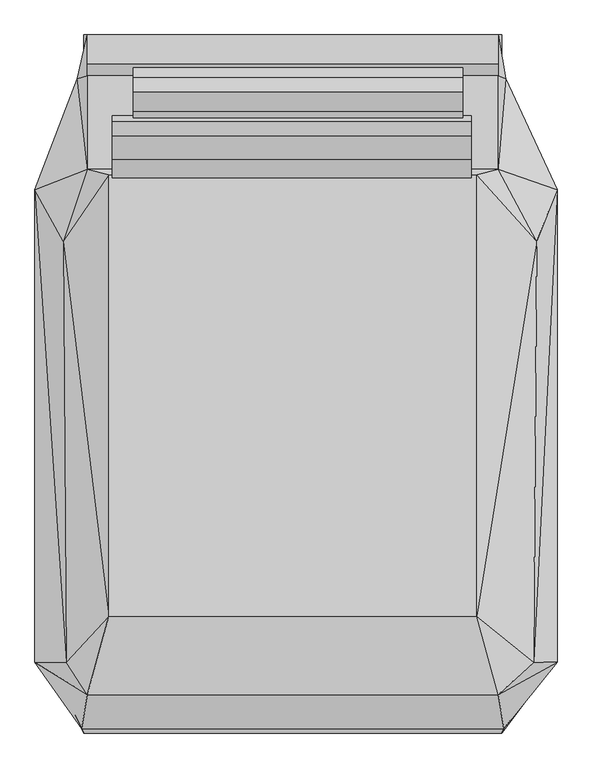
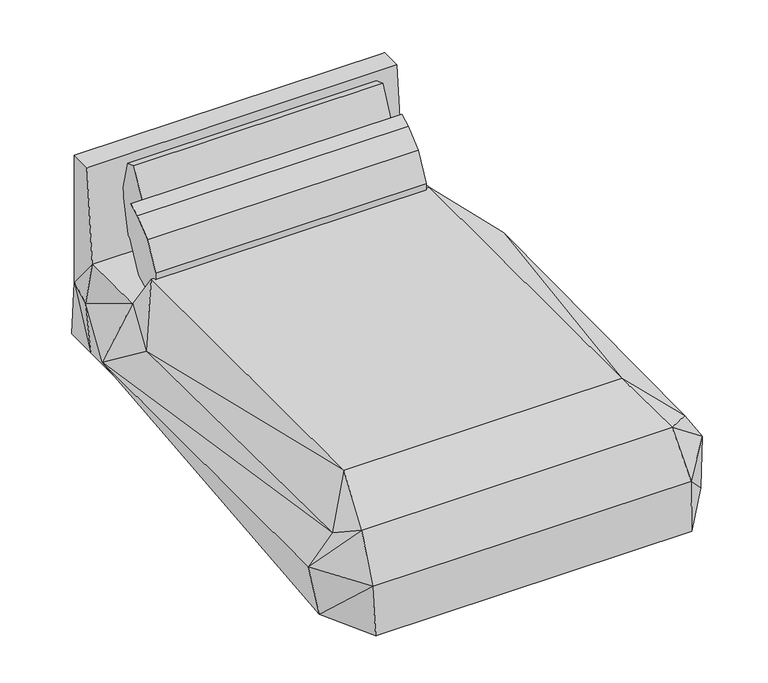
"""IFC4 building model written with IfcOpenShell, lengths in millimetres: geographic element geometry, Enscape AssetDefinition - Bed 013 138x212 cm (54x83 in) : Enscape AssetDefinition - Bed 013 138x212 cm (54x83 in)."""

from ifc_helpers import new_model, si_unit, origin, place, context, project, spatial, triangles, source, transform, mapped, element, save


def geographic_element_4481aa39(model_context):
    return source(origin(), model_context, "Body", "Tessellation", [
        triangles([(-707.7900095, -1296.1749527, 54.5050034), (710.5160059, -1281.4618973, 281.4620168), (-822.8869812, -1059.1870199, 54.5050034), (704.375029, -1296.1749527, 54.5050034), (882.3180193, -1059.1870199, 54.5050034), (-713.9310591, -1281.4618973, 281.4620168), (-695.3539953, -1166.6869989, 471.6930107), (691.9379974, -1166.6869989, 471.6930107), (890.2639732, -1057.9619493, 294.313994), (811.0690252, -1057.2609747, 417.7270097), (619.4549944, -901.1540062, 568.1369785), (-776.88601, 363.9500233, 417.7270097), (-622.8700476, -901.1540062, 568.1369785), (-622.8700476, 588.4640081, 568.2169882), (619.4549944, 588.4640081, 568.2169882), (691.9379974, 607.4460254, 467.0910024), (822.3339626, 363.8260119, 417.7270097), (890.2639732, 537.9629846, 294.313994), (691.9379974, 922.558005, 461.071021), (-695.3539953, 607.4460254, 467.0910024), (-765.6209999, -1057.2609747, 417.7270097), (-695.3539953, 922.558005, 461.071021), (717.8619965, 912.4209784, 294.313994), (691.6679558, 963.4990379, 893.8880253), (691.6679558, 1060.0679981, 893.8880253), (-695.0839537, 963.5000553, 893.8880253), (-695.083009, 1060.0679981, 893.8880253), (704.375029, 1060.0679981, 54.5050034), (-695.3529779, 1060.0679981, 294.313994), (691.9379974, 1060.0679981, 294.313994), (704.375029, 911.8869993, 54.5050034), (840.2069996, 537.782, 54.5050034), (-707.7900095, 537.782, 54.5050034), (-707.7900095, 911.8880167, 54.5050034), (-707.7900095, 1060.0679981, 54.5050034), (-872.0100002, 537.9629846, 294.313994), (-729.7609795, 912.4209784, 294.313994), (-872.0100002, -1057.9619493, 294.313994), (600.2569656, 769.4810114, 811.0079824), (600.2569656, 718.9049561, 785.3740093), (-610.5260336, 769.4820288, 811.0079824), (-610.5260336, 786.7010359, 662.4929924), (-610.5260336, 718.9049561, 785.3740093), (-610.5260336, 577.4119938, 598.9270323), (600.2569656, 577.4119938, 598.9270323), (-610.5260336, 638.7199522, 720.0399885), (600.2569656, 638.7199522, 720.0399885), (-610.5260336, 585.2820439, 447.3989994), (600.2569656, 786.7010359, 662.4929924), (-610.5260336, 709.5860481, 509.749009), (600.2569656, 709.5860481, 509.7500264), (600.2569656, 585.2820439, 447.3989994), (-540.7649938, 915.1399984, 890.5190449), (571.1359961, 915.1399984, 890.5190449), (571.1359961, 801.3569727, 781.0680222), (571.1359961, 866.2580257, 907.9960304), (-540.7649938, 866.2580257, 907.9960304), (-540.7639764, 953.669042, 741.2330263), (-540.7639764, 801.3569727, 781.0680222), (-540.7649938, 738.5799906, 618.6040289), (571.1359961, 911.7550306, 553.1090077), (571.1359961, 738.5799906, 618.6040289), (571.1359961, 733.6560179, 439.4640186), (571.1359961, 953.669042, 741.2330263), (-540.7639764, 911.7550306, 553.1079904), (-540.7649938, 733.6560179, 439.4640186)], [[61, 63, 66], [66, 65, 61], [64, 61, 65], [65, 66, 60], [60, 66, 63], [61, 64, 62], [61, 62, 63], [63, 62, 60], [64, 55, 62], [59, 60, 62], [62, 55, 59], [60, 59, 58], [65, 58, 64], [65, 60, 58], [59, 57, 58], [57, 59, 55], [57, 53, 58], [64, 56, 55], [53, 57, 56], [55, 56, 57], [64, 54, 56], [58, 53, 54], [56, 54, 53], [54, 64, 58], [51, 52, 48], [48, 50, 51], [49, 51, 50], [50, 48, 44], [44, 48, 52], [51, 49, 45], [51, 45, 52], [52, 45, 44], [49, 47, 45], [46, 44, 45], [45, 47, 46], [44, 46, 42], [50, 42, 49], [50, 44, 42], [46, 43, 42], [43, 46, 47], [43, 41, 42], [49, 40, 47], [41, 43, 40], [47, 40, 43], [49, 39, 40], [42, 41, 39], [40, 39, 41], [39, 49, 42], [36, 38, 21], [3, 38, 36], [32, 5, 3], [3, 33, 32], [33, 36, 37], [36, 33, 3], [37, 34, 33], [29, 35, 34], [34, 37, 29], [28, 35, 29], [34, 35, 28], [28, 31, 34], [32, 31, 23], [31, 32, 33], [33, 34, 31], [30, 29, 27], [29, 30, 28], [30, 23, 31], [31, 28, 30], [27, 25, 30], [30, 25, 24], [25, 27, 26], [26, 24, 25], [26, 27, 29], [19, 24, 26], [24, 19, 30], [19, 23, 30], [26, 22, 19], [29, 22, 26], [22, 29, 37], [20, 37, 36], [20, 22, 37], [20, 36, 12], [21, 12, 36], [14, 20, 12], [16, 23, 19], [16, 19, 22], [22, 20, 16], [16, 20, 14], [16, 18, 23], [23, 18, 32], [5, 32, 18], [16, 17, 18], [15, 17, 16], [14, 15, 16], [15, 14, 13], [12, 21, 13], [13, 14, 12], [17, 15, 11], [13, 11, 15], [11, 10, 17], [18, 17, 10], [18, 9, 5], [10, 9, 18], [8, 10, 11], [9, 10, 8], [8, 11, 13], [13, 7, 8], [7, 13, 21], [7, 21, 38], [38, 6, 7], [6, 38, 3], [8, 2, 9], [5, 9, 2], [2, 8, 7], [7, 6, 2], [2, 4, 5], [3, 5, 4], [4, 1, 3], [3, 1, 6], [2, 6, 1], [1, 4, 2]]),
    ])


if __name__ == "__main__":
    model = new_model("IFC4")
    model_context = context("Model", 3, world=origin())
    ifc_project = project(units=[si_unit("LENGTHUNIT", "METRE", prefix="MILLI")], contexts=[model_context])
    site = spatial("IfcSite", under=ifc_project)
    building = spatial("IfcBuilding", under=site)
    placement = place(None, origin())
    geographic_element_shape = geographic_element_4481aa39(model_context)
    element("IfcGeographicElement", 1, ObjectType="Enscape AssetDefinition - Bed 013 138x212 cm (54x83 in) : Enscape AssetDefinition - Bed 013 138x212 cm (54x83 in)", at=placement, inside=building, context=model_context, shape_type="MappedRepresentation", body=[
        mapped(geographic_element_shape, transform((0.0, 0.0, 0.0), x_axis=(1.0, 0.0, 0.0), y_axis=(0.0, 1.0, 0.0), z_axis=(0.0, 0.0, 1.0))),
    ])
    save(model, "model.ifc")
